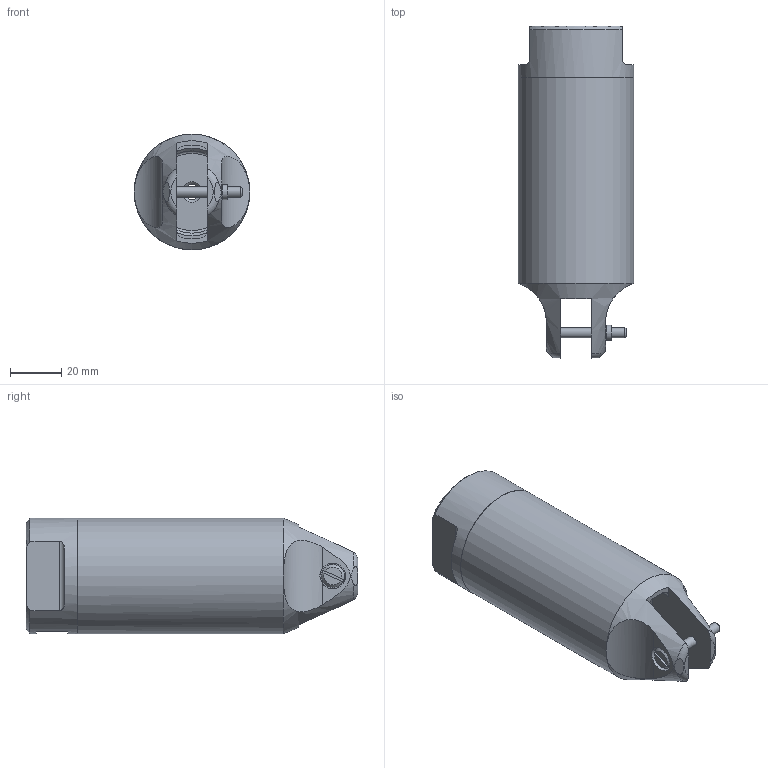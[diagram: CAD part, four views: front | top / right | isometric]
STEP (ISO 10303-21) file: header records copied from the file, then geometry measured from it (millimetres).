
FILE_DESCRIPTION(/* description */ (''),/* implementation_level */ '2;1');
FILE_NAME(/* name */ 'J:\_TEMP - INPUT - Daten Austausch\CADs\Test-Downloads\GT-NR20.stp',/* time_stamp */ '2017-05-30T10:53:29+02:00',/* author */ ('DFloßmann'),/* organization */ (''),/* preprocessor_version */ 'ST-DEVELOPER v16.5',/* originating_system */ 'Autodesk Inventor 2017',/* authorisation */ '');
FILE_SCHEMA (('AUTOMOTIVE_DESIGN { 1 0 10303 214 3 1 1 }'));
Length unit declared in the file: millimetre
Products named in the file (7): Baugruppe Schneidzange; Gehäuse Schneidzange; DIN 985 - M4; Whitworth 1-8 Gewinde Schraubverschluss; O-Ring Parker Nr. 6-046; Druckluftanschluss neu; Gehäuseschraube M4 neu
Assembly tree (6 placements, depth 2):
  Baugruppe Schneidzange
    Gehäuse Schneidzange
    DIN 985 - M4
    Whitworth 1-8 Gewinde Schraubverschluss
    O-Ring Parker Nr. 6-046
    Druckluftanschluss neu
    Gehäuseschraube M4 neu
Bounding box: 45 x 129.2 x 45 mm (x, y, z)
Volume: 82944.2 mm3; surface area: 38453 mm2
Topology: 6 solids, 6 shells, 115 faces, 264 edges, 167 vertices
Faces by surface type: plane 54, cylinder 31, cone 24, torus 6
Full cylindrical faces by diameter (mm): 3.242 x1, 4 x3, 4.134 x2, 5.9 x1, 6 x2, 8.566 x2, 9 x1, 9.728 x1, 10 x1, 32 x1, 38 x1, 38.5 x1, 38.917 x1, 40 x1, 40.9 x1, 41 x1, 45 x2
Entity records: 3346 total; most frequent: CARTESIAN_POINT 815, DIRECTION 511, ORIENTED_EDGE 410, AXIS2_PLACEMENT_3D 223, EDGE_CURVE 205, EDGE_LOOP 180, VERTEX_POINT 153, FACE_OUTER_BOUND 115
